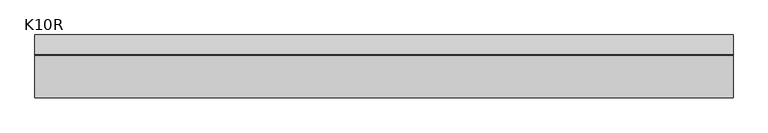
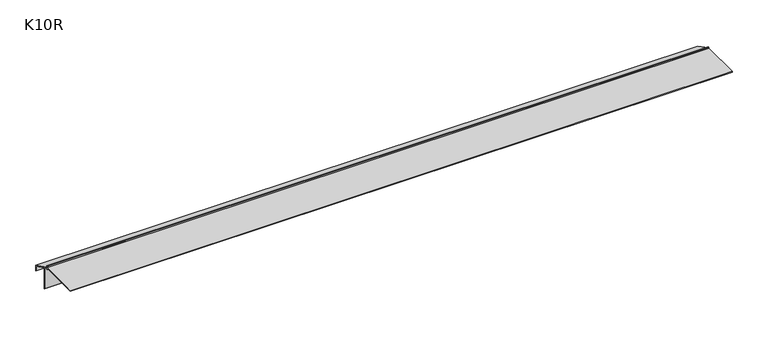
"""IFC4 building model written with IfcOpenShell, lengths in millimetres: proxy geometry, K10R Profil okapowy prosty z rynną : K10R."""

from ifc_helpers import new_model, si_unit, frame, origin, place, context, project, spatial, polyline, outline, extrude, source, transform, mapped, element, save


def k10r_c50524b0(model_context):
    return source(origin(), model_context, "Body", "SweptSolid", [
        extrude(outline(polyline([(31.2999993, -17.3500005), (31.2999993, -26.6), (30.0499993, -25.9199265), (30.0499993, -18.1225422), (7.9999999, -7.0975422), (7.9999999, -43.6535517), (6.5000001, -42.1535547), (6.5000001, -6.3475423), (1.1999998, -3.697542), (1.1999998, -6.2999991), (0.0, -6.2999991), (0.0, -3.6), (-64.7000037, -3.6), (-64.7000037, -2.3499993), (0.0, -2.3499993), (0.0, 0.0), (1.2999997, 0.0), (1.2999997, -2.3500002), (31.2999993, -17.3500005)])), frame((0.0, 0.0, 0.0), z_axis=(1.0, 0.0, 0.0), x_axis=(0.0, 1.0, 0.0)), (0.0, 0.0, 1.0), 1065.072546),
    ])


if __name__ == "__main__":
    model = new_model("IFC4")
    model_context = context("Model", 3, world=origin())
    ifc_project = project(units=[si_unit("LENGTHUNIT", "METRE", prefix="MILLI")], contexts=[model_context])
    site = spatial("IfcSite", under=ifc_project)
    building = spatial("IfcBuilding", under=site)
    placement = place(None, origin())
    k10r_shape = k10r_c50524b0(model_context)
    element("IfcBuildingElementProxy", 1, Name="K10R Profil okapowy prosty z rynną : K10R", ObjectType="K10R Profil okapowy prosty z rynną : K10R", at=placement, inside=building, context=model_context, shape_type="MappedRepresentation", body=[
        mapped(k10r_shape, transform((0.0, 0.0, 0.0), x_axis=(1.0, 0.0, 0.0), y_axis=(0.0, 1.0, 0.0), z_axis=(0.0, 0.0, 1.0))),
    ])
    save(model, "model.ifc")
